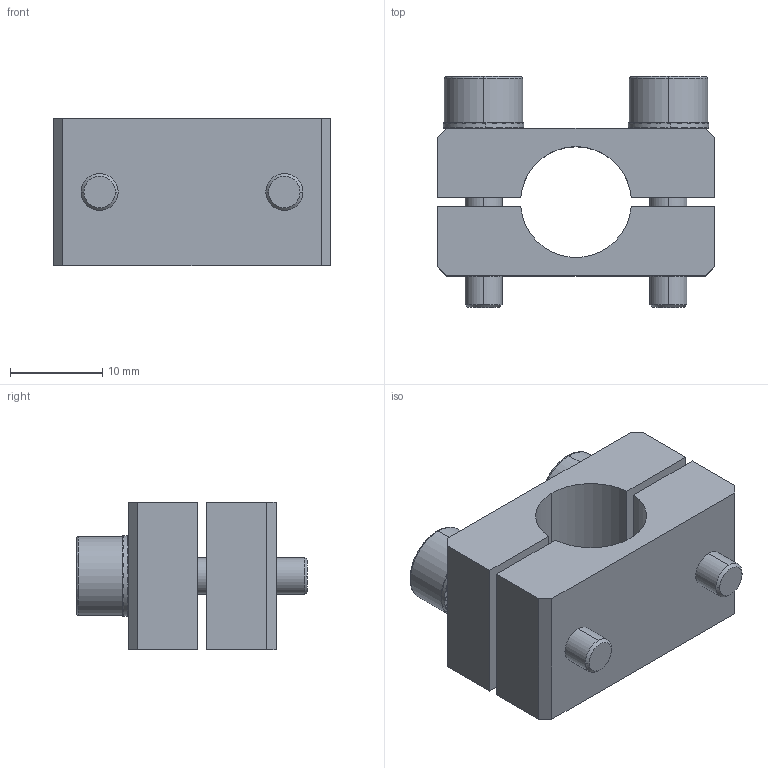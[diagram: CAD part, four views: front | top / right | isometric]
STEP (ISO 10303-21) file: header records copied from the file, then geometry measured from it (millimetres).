
FILE_DESCRIPTION (( 'STEP AP214' ), '1' );
FILE_NAME ('SMBK1-12T16.STEP', '2019-11-07T00:51:03', ( '微软用户' ), ( '微软中国' ), 'SwSTEP 2.0', 'SolidWorks 2016', '' );
FILE_SCHEMA (( 'AUTOMOTIVE_DESIGN' ));
Length unit declared in the file: millimetre
Products named in the file (1): SMBK1-12T16
Bounding box: 30 x 25 x 16 mm (x, y, z)
Volume: 6074.8 mm3; surface area: 4852 mm2
Topology: 6 solids, 6 shells, 457 faces, 1315 edges, 870 vertices
Faces by surface type: plane 422, cylinder 27, cone 4, bspline 4
Entity records: 20421 total; most frequent: CARTESIAN_POINT 2913, DIRECTION 2645, ORIENTED_EDGE 2630, EDGE_CURVE 1315, AXIS2_PLACEMENT_3D 884, VECTOR 877, LINE 877, VERTEX_POINT 870
